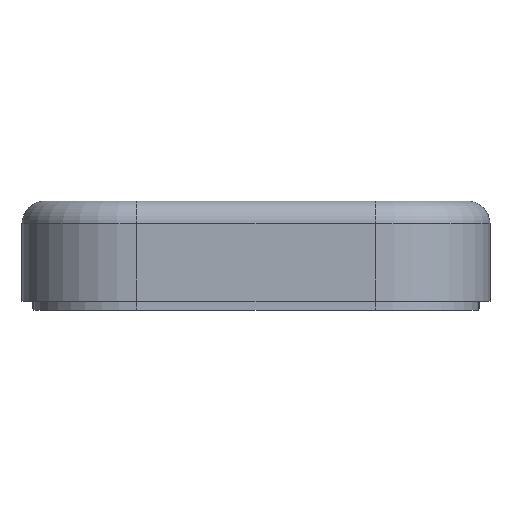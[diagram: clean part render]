
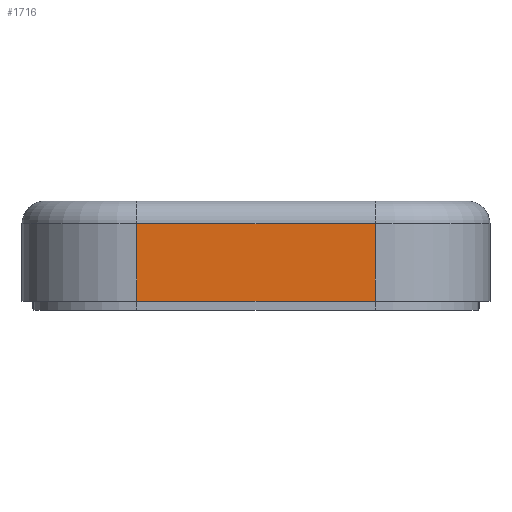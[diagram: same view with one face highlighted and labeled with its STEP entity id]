
A CAD part, front view. The second image highlights one B-rep face of the part: STEP entity #1716.
In plain terms, the highlighted planar face has unit normal (0, -1, 0).
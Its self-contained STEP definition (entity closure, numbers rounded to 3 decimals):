
#44 = CYLINDRICAL_SURFACE('',#45,21.2);
#45 = AXIS2_PLACEMENT_3D('',#46,#47,#48);
#46 = CARTESIAN_POINT('',(-22.,-46.,-11.95));
#47 = DIRECTION('',(0.,0.,1.));
#48 = DIRECTION('',(-1.,-0.,0.));
#72 = PLANE('',#73);
#73 = AXIS2_PLACEMENT_3D('',#74,#75,#76);
#74 = CARTESIAN_POINT('',(-90.,-110.,-7.5));
#75 = DIRECTION('',(0.,0.,1.));
#76 = DIRECTION('',(1.,0.,-0.));
#366 = VERTEX_POINT('',#367);
#367 = CARTESIAN_POINT('',(-22.,-67.2,-7.5));
#389 = EDGE_CURVE('',#366,#390,#392,.T.);
#390 = VERTEX_POINT('',#391);
#391 = CARTESIAN_POINT('',(-22.,-67.2,6.75));
#392 = SURFACE_CURVE('',#393,(#397,#404),.PCURVE_S1.);
#393 = LINE('',#394,#395);
#394 = CARTESIAN_POINT('',(-22.,-67.2,-11.95));
#395 = VECTOR('',#396,1.);
#396 = DIRECTION('',(0.,0.,1.));
#397 = PCURVE('',#44,#398);
#398 = DEFINITIONAL_REPRESENTATION('',(#399),#403);
#399 = LINE('',#400,#401);
#400 = CARTESIAN_POINT('',(1.571,0.));
#401 = VECTOR('',#402,1.);
#402 = DIRECTION('',(0.,1.));
#403 = ( GEOMETRIC_REPRESENTATION_CONTEXT(2) 
PARAMETRIC_REPRESENTATION_CONTEXT() REPRESENTATION_CONTEXT('2D SPACE',''
  ) );
#404 = PCURVE('',#405,#410);
#405 = PLANE('',#406);
#406 = AXIS2_PLACEMENT_3D('',#407,#408,#409);
#407 = CARTESIAN_POINT('',(-43.2,-67.2,-11.95));
#408 = DIRECTION('',(0.,1.,0.));
#409 = DIRECTION('',(0.,-0.,1.));
#410 = DEFINITIONAL_REPRESENTATION('',(#411),#415);
#411 = LINE('',#412,#413);
#412 = CARTESIAN_POINT('',(0.,21.2));
#413 = VECTOR('',#414,1.);
#414 = DIRECTION('',(1.,0.));
#415 = ( GEOMETRIC_REPRESENTATION_CONTEXT(2) 
PARAMETRIC_REPRESENTATION_CONTEXT() REPRESENTATION_CONTEXT('2D SPACE',''
  ) );
#501 = EDGE_CURVE('',#366,#502,#504,.T.);
#502 = VERTEX_POINT('',#503);
#503 = CARTESIAN_POINT('',(22.,-67.2,-7.5));
#504 = SURFACE_CURVE('',#505,(#509,#516),.PCURVE_S1.);
#505 = LINE('',#506,#507);
#506 = CARTESIAN_POINT('',(-66.6,-67.2,-7.5));
#507 = VECTOR('',#508,1.);
#508 = DIRECTION('',(1.,0.,0.));
#509 = PCURVE('',#72,#510);
#510 = DEFINITIONAL_REPRESENTATION('',(#511),#515);
#511 = LINE('',#512,#513);
#512 = CARTESIAN_POINT('',(23.4,42.8));
#513 = VECTOR('',#514,1.);
#514 = DIRECTION('',(1.,0.));
#515 = ( GEOMETRIC_REPRESENTATION_CONTEXT(2) 
PARAMETRIC_REPRESENTATION_CONTEXT() REPRESENTATION_CONTEXT('2D SPACE',''
  ) );
#516 = PCURVE('',#405,#517);
#517 = DEFINITIONAL_REPRESENTATION('',(#518),#522);
#518 = LINE('',#519,#520);
#519 = CARTESIAN_POINT('',(4.45,-23.4));
#520 = VECTOR('',#521,1.);
#521 = DIRECTION('',(0.,1.));
#522 = ( GEOMETRIC_REPRESENTATION_CONTEXT(2) 
PARAMETRIC_REPRESENTATION_CONTEXT() REPRESENTATION_CONTEXT('2D SPACE',''
  ) );
#541 = CYLINDRICAL_SURFACE('',#542,21.2);
#542 = AXIS2_PLACEMENT_3D('',#543,#544,#545);
#543 = CARTESIAN_POINT('',(22.,-46.,-11.95));
#544 = DIRECTION('',(0.,0.,1.));
#545 = DIRECTION('',(1.,0.,-0.));
#1716 = ADVANCED_FACE('',(#1717),#405,.F.);
#1717 = FACE_BOUND('',#1718,.F.);
#1718 = EDGE_LOOP('',(#1719,#1720,#1721,#1749));
#1719 = ORIENTED_EDGE('',*,*,#501,.F.);
#1720 = ORIENTED_EDGE('',*,*,#389,.T.);
#1721 = ORIENTED_EDGE('',*,*,#1722,.F.);
#1722 = EDGE_CURVE('',#1723,#390,#1725,.T.);
#1723 = VERTEX_POINT('',#1724);
#1724 = CARTESIAN_POINT('',(22.,-67.2,6.75));
#1725 = SURFACE_CURVE('',#1726,(#1730,#1737),.PCURVE_S1.);
#1726 = LINE('',#1727,#1728);
#1727 = CARTESIAN_POINT('',(22.,-67.2,6.75));
#1728 = VECTOR('',#1729,1.);
#1729 = DIRECTION('',(-1.,-0.,-0.));
#1730 = PCURVE('',#405,#1731);
#1731 = DEFINITIONAL_REPRESENTATION('',(#1732),#1736);
#1732 = LINE('',#1733,#1734);
#1733 = CARTESIAN_POINT('',(18.7,65.2));
#1734 = VECTOR('',#1735,1.);
#1735 = DIRECTION('',(0.,-1.));
#1736 = ( GEOMETRIC_REPRESENTATION_CONTEXT(2) 
PARAMETRIC_REPRESENTATION_CONTEXT() REPRESENTATION_CONTEXT('2D SPACE',''
  ) );
#1737 = PCURVE('',#1738,#1743);
#1738 = CYLINDRICAL_SURFACE('',#1739,4.2);
#1739 = AXIS2_PLACEMENT_3D('',#1740,#1741,#1742);
#1740 = CARTESIAN_POINT('',(22.,-63.,6.75));
#1741 = DIRECTION('',(-1.,-0.,-0.));
#1742 = DIRECTION('',(0.,-1.,0.));
#1743 = DEFINITIONAL_REPRESENTATION('',(#1744),#1748);
#1744 = LINE('',#1745,#1746);
#1745 = CARTESIAN_POINT('',(0.,0.));
#1746 = VECTOR('',#1747,1.);
#1747 = DIRECTION('',(0.,1.));
#1748 = ( GEOMETRIC_REPRESENTATION_CONTEXT(2) 
PARAMETRIC_REPRESENTATION_CONTEXT() REPRESENTATION_CONTEXT('2D SPACE',''
  ) );
#1749 = ORIENTED_EDGE('',*,*,#1750,.F.);
#1750 = EDGE_CURVE('',#502,#1723,#1751,.T.);
#1751 = SURFACE_CURVE('',#1752,(#1756,#1763),.PCURVE_S1.);
#1752 = LINE('',#1753,#1754);
#1753 = CARTESIAN_POINT('',(22.,-67.2,-11.95));
#1754 = VECTOR('',#1755,1.);
#1755 = DIRECTION('',(0.,0.,1.));
#1756 = PCURVE('',#405,#1757);
#1757 = DEFINITIONAL_REPRESENTATION('',(#1758),#1762);
#1758 = LINE('',#1759,#1760);
#1759 = CARTESIAN_POINT('',(0.,65.2));
#1760 = VECTOR('',#1761,1.);
#1761 = DIRECTION('',(1.,0.));
#1762 = ( GEOMETRIC_REPRESENTATION_CONTEXT(2) 
PARAMETRIC_REPRESENTATION_CONTEXT() REPRESENTATION_CONTEXT('2D SPACE',''
  ) );
#1763 = PCURVE('',#541,#1764);
#1764 = DEFINITIONAL_REPRESENTATION('',(#1765),#1769);
#1765 = LINE('',#1766,#1767);
#1766 = CARTESIAN_POINT('',(4.712,0.));
#1767 = VECTOR('',#1768,1.);
#1768 = DIRECTION('',(-0.,1.));
#1769 = ( GEOMETRIC_REPRESENTATION_CONTEXT(2) 
PARAMETRIC_REPRESENTATION_CONTEXT() REPRESENTATION_CONTEXT('2D SPACE',''
  ) );
